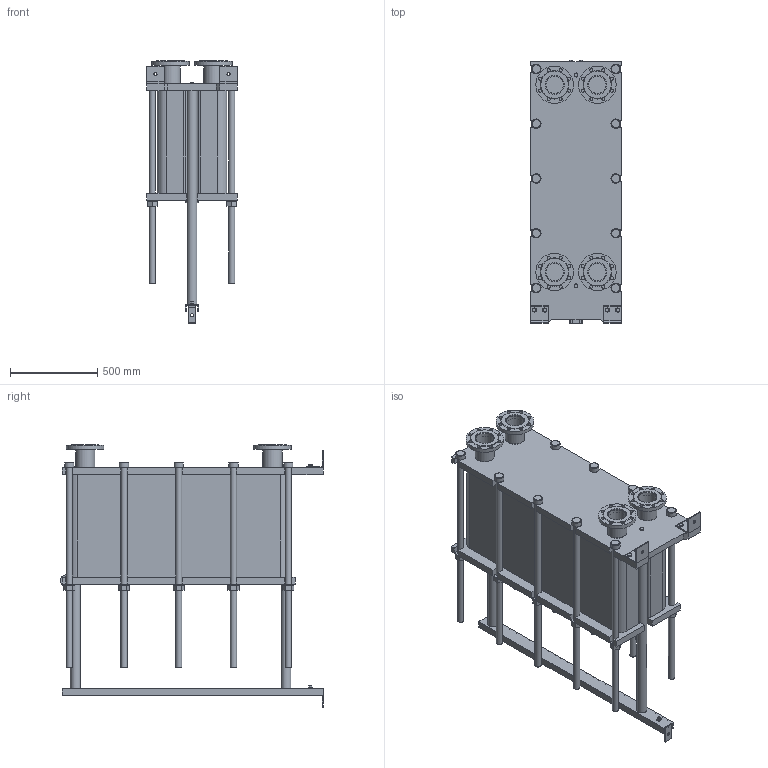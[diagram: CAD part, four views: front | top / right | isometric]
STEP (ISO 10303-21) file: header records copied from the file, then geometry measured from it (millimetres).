
FILE_DESCRIPTION(/* description */ (''),/* implementation_level */ '2;1');
FILE_NAME(/* name */ 'C:\Users\zhuro\Desktop\ENCO\TO\ЭН-04\ЭН-0,5-04-171-1.stp',/* time_stamp */ '2022-06-06T11:00:15+03:00',/* author */ ('zhuro'),/* organization */ (''),/* preprocessor_version */ 'ST-DEVELOPER v18.1',/* originating_system */ 'Autodesk Inventor 2022',/* authorisation */ '');
FILE_SCHEMA (('AUTOMOTIVE_DESIGN { 1 0 10303 214 3 1 1 }'));
Length unit declared in the file: millimetre
Products named in the file (1): ЭН-0,5-04-171-1
Bounding box: 520 x 1510 x 1505.5 mm (x, y, z)
Volume: 369858984.3 mm3; surface area: 9916558.7 mm2
Topology: 45 solids, 45 shells, 668 faces, 1611 edges, 1048 vertices
Faces by surface type: plane 457, cylinder 166, cone 39, torus 6
Full cylindrical faces by diameter (mm): 8 x4, 10 x2, 16 x8, 18 x35, 36 x25, 40 x2, 42 x1, 45 x4, 54 x10, 57 x2, 60 x10, 68 x2, 100 x4, 110 x8, 215 x4
Entity records: 23607 total; most frequent: CARTESIAN_POINT 7348, DIRECTION 3371, ORIENTED_EDGE 3142, EDGE_CURVE 1571, AXIS2_PLACEMENT_3D 1199, VERTEX_POINT 1044, LINE 973, VECTOR 973
